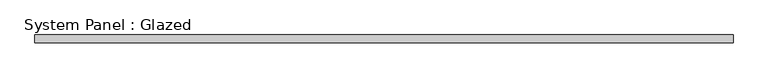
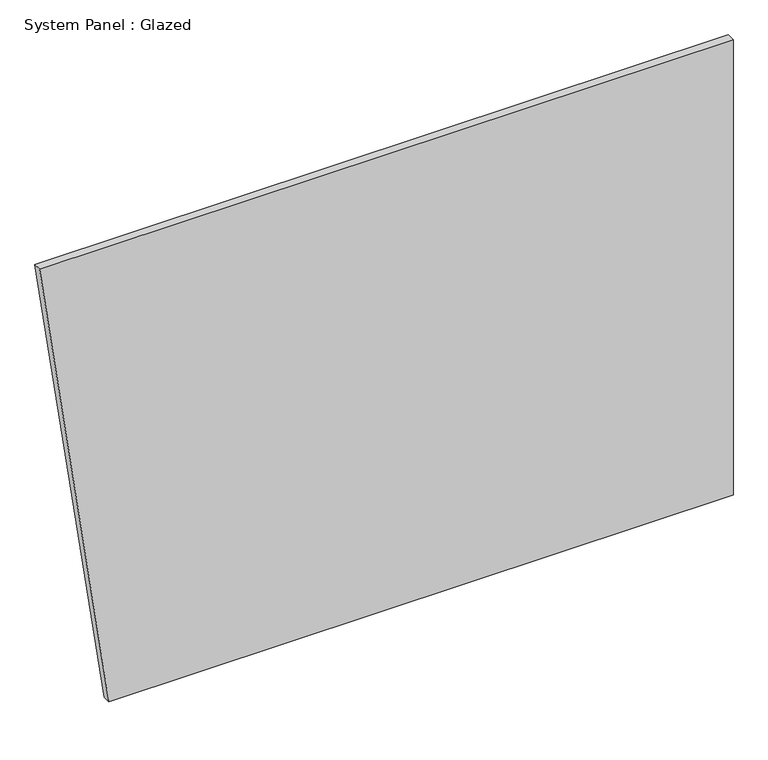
"""IFC4 building model written with IfcOpenShell, lengths in millimetres: plate geometry, System Panel : Glazed."""

from ifc_helpers import new_model, si_unit, frame, origin, place, context, project, spatial, polyline, outline, extrude, source, transform, mapped, element, save


def system_panel_glazed_74d0b2fe(model_context):
    return source(origin(), model_context, "Body", "SweptSolid", [
        extrude(outline(polyline([(0.0, -877.1223023), (0.0, 1096.4028779), (1524.0, 1096.4028779), (1524.0, -1096.4028779), (0.0, -877.1223023)])), frame((0.0, 19.05, 0.0), z_axis=(0.0, 1.0, 0.0), x_axis=(0.0, 0.0, 1.0)), (0.0, 0.0, 1.0), 25.4),
    ])


if __name__ == "__main__":
    model = new_model("IFC4")
    model_context = context("Model", 3, world=origin())
    ifc_project = project(units=[si_unit("LENGTHUNIT", "METRE", prefix="MILLI")], contexts=[model_context])
    site = spatial("IfcSite", under=ifc_project)
    building = spatial("IfcBuilding", under=site)
    placement = place(None, origin())
    system_panel_glazed_shape = system_panel_glazed_74d0b2fe(model_context)
    element("IfcPlate", 1, ObjectType="System Panel : Glazed", at=placement, inside=building, context=model_context, shape_type="MappedRepresentation", body=[
        mapped(system_panel_glazed_shape, transform((0.0, 0.0, 0.0), x_axis=(1.0, 0.0, 0.0), y_axis=(0.0, 1.0, 0.0), z_axis=(0.0, 0.0, 1.0))),
    ])
    save(model, "model.ifc")
